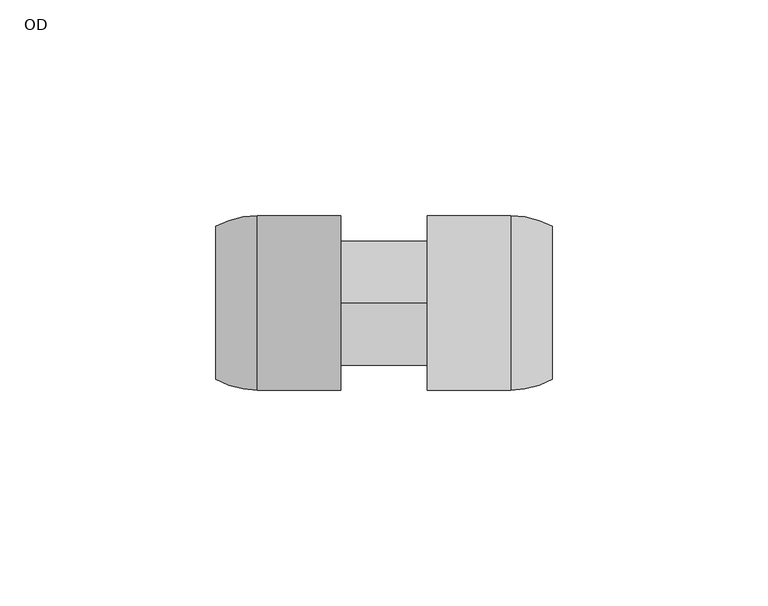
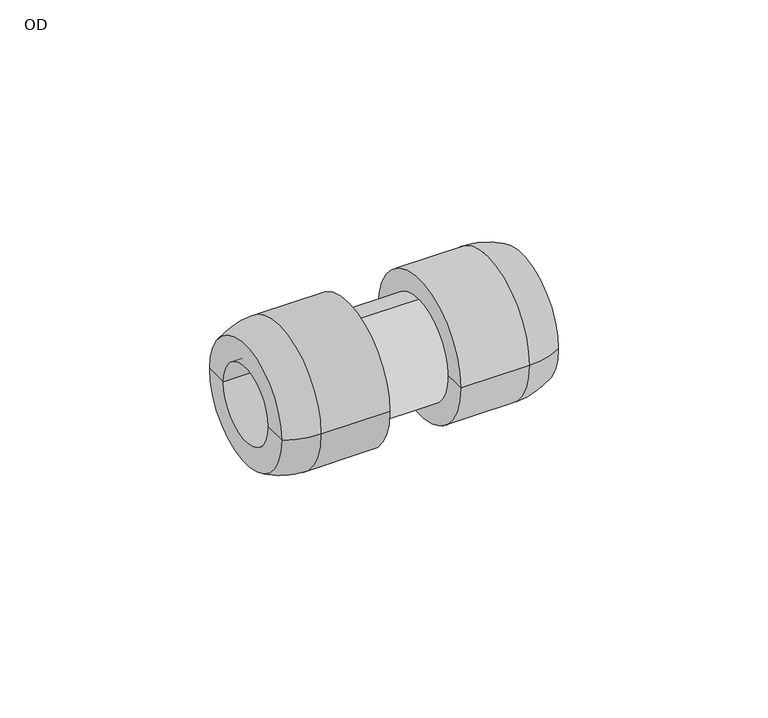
"""IFC4 building model written with IfcOpenShell, lengths in millimetres: pipe fitting geometry, Wavin_PipeFitting_Hep2oCoupler : OD."""

from ifc_helpers import new_model, si_unit, point, frame, origin, origin_2d, place, context, project, spatial, polyline, circle_curve, ellipse_curve, trimmed, segment, composite_curve, outline, extrude, source, transform, mapped, element, save
from ifc_brep_helpers import plane_surface, cylinder_surface, revolved_surface, advanced_brep


def od_6c5656e1(model_context):
    return source(origin(), model_context, "Body", "SolidModel", [
        advanced_brep(
        [(20.0, 11.0, 0.0), (20.0, -11.0, 0.0), (49.0, -11.0, 0.0), (49.0, 11.0, 0.0), (20.0, 20.2, 0.0), (20.0, -20.2, 0.0), (39.3333333, 20.2, 0.0), (39.3333333, -20.2, 0.0), (49.0, 17.7368418, 0.0), (49.0, -17.7368418, 0.0)],
        [
            (0, 1, circle_curve(frame((20.0, 0.0, 0.0), z_axis=(-1.0, 0.0, 0.0), x_axis=(0.0, -1.0, 0.0)), 11.0)),
            (1, 2),
            (2, 3, circle_curve(frame((49.0, 0.0, 0.0), z_axis=(1.0, 0.0, 0.0), x_axis=(0.0, -1.0, 0.0)), 11.0)),
            (3, 0),
            (1, 0, circle_curve(frame((20.0, 0.0, 0.0), z_axis=(-1.0, 0.0, 0.0), x_axis=(0.0, -1.0, 0.0)), 11.0)),
            (3, 2, circle_curve(frame((49.0, 0.0, 0.0), z_axis=(1.0, 0.0, 0.0), x_axis=(0.0, -1.0, 0.0)), 11.0)),
            (4, 5, circle_curve(frame((20.0, 0.0, 0.0), z_axis=(-1.0, 0.0, 0.0), x_axis=(0.0, -1.0, 0.0)), 20.2)),
            (5, 1),
            (0, 4),
            (5, 4, circle_curve(frame((20.0, 0.0, 0.0), z_axis=(-1.0, 0.0, 0.0), x_axis=(0.0, -1.0, 0.0)), 20.2)),
            (6, 7, circle_curve(frame((39.3333333, 0.0, 0.0), z_axis=(-1.0, 0.0, 0.0), x_axis=(0.0, -1.0, 0.0)), 20.2)),
            (7, 5),
            (4, 6),
            (7, 6, circle_curve(frame((39.3333333, 0.0, 0.0), z_axis=(-1.0, 0.0, 0.0), x_axis=(0.0, -1.0, 0.0)), 20.2)),
            (8, 9, circle_curve(frame((49.0, 0.0, 0.0), z_axis=(-1.0, 0.0, 0.0), x_axis=(0.0, -1.0, 0.0)), 17.7368418)),
            (9, 7, circle_curve(frame((39.3333333, 0.0, 0.0), z_axis=(0.0, 0.0, -1.0), x_axis=(-1.0, 0.0, 0.0)), 20.2)),
            (6, 8, circle_curve(frame((39.3333333, 0.0, 0.0), z_axis=(0.0, 0.0, -1.0), x_axis=(-1.0, 0.0, 0.0)), 20.2)),
            (9, 8, circle_curve(frame((49.0, 0.0, 0.0), z_axis=(-1.0, 0.0, 0.0), x_axis=(0.0, -1.0, 0.0)), 17.7368418)),
            (2, 9),
            (8, 3),
        ],
        [
            revolved_surface(polyline([(49.0, -11.0, 0.0), (20.0, -11.0, 0.0)]), (-1980.0, 0.0, 0.0), (1.0, 0.0, 0.0)),
            plane_surface(frame((20.0, 0.0, 0.0), z_axis=(-1.0, 0.0, 0.0), x_axis=(0.0, -1.0, 0.0))),
            cylinder_surface(frame((-1980.0, 0.0, 0.0), z_axis=(1.0, 0.0, 0.0), x_axis=(0.0, -1.0, 0.0)), 20.2),
            revolved_surface(trimmed(ellipse_curve(frame((39.3333333, 0.0, 0.0), z_axis=(0.0, 0.0, 1.0), x_axis=(-1.0, 0.0, 0.0)), 20.2, 20.2), [point((39.3333333, -20.2, 0.0))], [point((49.0, -17.7368418, 0.0))], True, "CARTESIAN"), (-1980.0, 0.0, 0.0), (1.0, 0.0, 0.0)),
            plane_surface(frame((49.0, 0.0, 0.0), z_axis=(1.0, 0.0, 0.0), x_axis=(0.0, -1.0, 0.0))),
        ],
        [
            (0, [[1, 2, 3, 4]]),
            (0, [[5, -4, 6, -2]]),
            (1, [[7, 8, -1, 9]]),
            (1, [[10, -9, -5, -8]]),
            (2, [[11, 12, -7, 13]]),
            (2, [[14, -13, -10, -12]]),
            (3, [[15, 16, -11, 17]]),
            (3, [[18, -17, -14, -16]]),
            (4, [[-3, 19, -15, 20]]),
            (4, [[-6, -20, -18, -19]]),
        ],
    ),
        advanced_brep(
        [(0.0, -11.0, 0.0), (0.0, 11.0, 0.0), (-29.0, 11.0, 0.0), (-29.0, -11.0, 0.0), (0.0, -20.2, 0.0), (0.0, 20.2, 0.0), (-19.3333333, -20.2, 0.0), (-19.3333333, 20.2, 0.0), (-29.0, -17.7368418, 0.0), (-29.0, 17.7368418, 0.0)],
        [
            (0, 1, circle_curve(frame((0.0, 0.0, 0.0), z_axis=(1.0, 0.0, 0.0), x_axis=(0.0, 1.0, 0.0)), 11.0)),
            (1, 2),
            (2, 3, circle_curve(frame((-29.0, 0.0, 0.0), z_axis=(-1.0, 0.0, 0.0), x_axis=(0.0, 1.0, 0.0)), 11.0)),
            (3, 0),
            (1, 0, circle_curve(frame((0.0, 0.0, 0.0), z_axis=(1.0, 0.0, 0.0), x_axis=(0.0, 1.0, 0.0)), 11.0)),
            (3, 2, circle_curve(frame((-29.0, 0.0, 0.0), z_axis=(-1.0, 0.0, 0.0), x_axis=(0.0, 1.0, 0.0)), 11.0)),
            (4, 5, circle_curve(frame((0.0, 0.0, 0.0), z_axis=(1.0, 0.0, 0.0), x_axis=(0.0, 1.0, 0.0)), 20.2)),
            (5, 1),
            (0, 4),
            (5, 4, circle_curve(frame((0.0, 0.0, 0.0), z_axis=(1.0, 0.0, 0.0), x_axis=(0.0, 1.0, 0.0)), 20.2)),
            (6, 7, circle_curve(frame((-19.3333333, 0.0, 0.0), z_axis=(1.0, 0.0, 0.0), x_axis=(0.0, 1.0, 0.0)), 20.2)),
            (7, 5),
            (4, 6),
            (7, 6, circle_curve(frame((-19.3333333, 0.0, 0.0), z_axis=(1.0, 0.0, 0.0), x_axis=(0.0, 1.0, 0.0)), 20.2)),
            (8, 9, circle_curve(frame((-29.0, 0.0, 0.0), z_axis=(1.0, 0.0, 0.0), x_axis=(0.0, 1.0, 0.0)), 17.7368418)),
            (9, 7, circle_curve(frame((-19.3333333, 0.0, 0.0), z_axis=(0.0, 0.0, -1.0), x_axis=(1.0, 0.0, 0.0)), 20.2)),
            (6, 8, circle_curve(frame((-19.3333333, 0.0, 0.0), z_axis=(0.0, 0.0, -1.0), x_axis=(1.0, 0.0, 0.0)), 20.2)),
            (9, 8, circle_curve(frame((-29.0, 0.0, 0.0), z_axis=(1.0, 0.0, 0.0), x_axis=(0.0, 1.0, 0.0)), 17.7368418)),
            (2, 9),
            (8, 3),
        ],
        [
            revolved_surface(polyline([(-29.0, 11.0, 0.0), (0.0, 11.0, 0.0)]), (2000.0, 0.0, 0.0), (-1.0, 0.0, 0.0)),
            plane_surface(frame((0.0, 0.0, 0.0), z_axis=(1.0, 0.0, 0.0), x_axis=(0.0, 1.0, 0.0))),
            cylinder_surface(frame((2000.0, 0.0, 0.0), z_axis=(-1.0, 0.0, 0.0), x_axis=(0.0, 1.0, 0.0)), 20.2),
            revolved_surface(trimmed(ellipse_curve(frame((-19.3333333, 0.0, 0.0), z_axis=(0.0, 0.0, 1.0), x_axis=(1.0, 0.0, 0.0)), 20.2, 20.2), [point((-19.3333333, 20.2, 0.0))], [point((-29.0, 17.7368418, 0.0))], True, "CARTESIAN"), (2000.0, 0.0, 0.0), (-1.0, 0.0, 0.0)),
            plane_surface(frame((-29.0, 0.0, 0.0), z_axis=(-1.0, 0.0, 0.0), x_axis=(0.0, 1.0, 0.0))),
        ],
        [
            (0, [[1, 2, 3, 4]]),
            (0, [[5, -4, 6, -2]]),
            (1, [[7, 8, -1, 9]]),
            (1, [[10, -9, -5, -8]]),
            (2, [[11, 12, -7, 13]]),
            (2, [[14, -13, -10, -12]]),
            (3, [[15, 16, -11, 17]]),
            (3, [[18, -17, -14, -16]]),
            (4, [[-3, 19, -15, 20]]),
            (4, [[-6, -20, -18, -19]]),
        ],
    ),
        extrude(outline(composite_curve([segment(trimmed(circle_curve(origin_2d(), 14.4), [point((0.0, -14.4))], [point((0.0, 14.4))], False, "CARTESIAN"), True, "CONTINUOUS"), segment(trimmed(circle_curve(origin_2d(), 14.4), [point((0.0, 14.4))], [point((0.0, -14.4))], False, "CARTESIAN"), True, "CONTINUOUS")], self_intersect=False)), frame((0.0, 0.0, 0.0), z_axis=(1.0, 0.0, 0.0), x_axis=(0.0, 1.0, 0.0)), (0.0, 0.0, 1.0), 20.0),
    ])


if __name__ == "__main__":
    model = new_model("IFC4")
    model_context = context("Model", 3, world=origin())
    ifc_project = project(units=[si_unit("LENGTHUNIT", "METRE", prefix="MILLI")], contexts=[model_context])
    site = spatial("IfcSite", under=ifc_project)
    building = spatial("IfcBuilding", under=site)
    placement = place(None, origin())
    od_shape = od_6c5656e1(model_context)
    element("IfcPipeFitting", 1, ObjectType="Wavin_PipeFitting_Hep2oCoupler : OD", at=placement, inside=building, context=model_context, shape_type="MappedRepresentation", body=[
        mapped(od_shape, transform((0.0, 0.0, 0.0), x_axis=(1.0, 0.0, 0.0), y_axis=(0.0, 1.0, 0.0), z_axis=(0.0, 0.0, 1.0))),
    ])
    save(model, "model.ifc")
